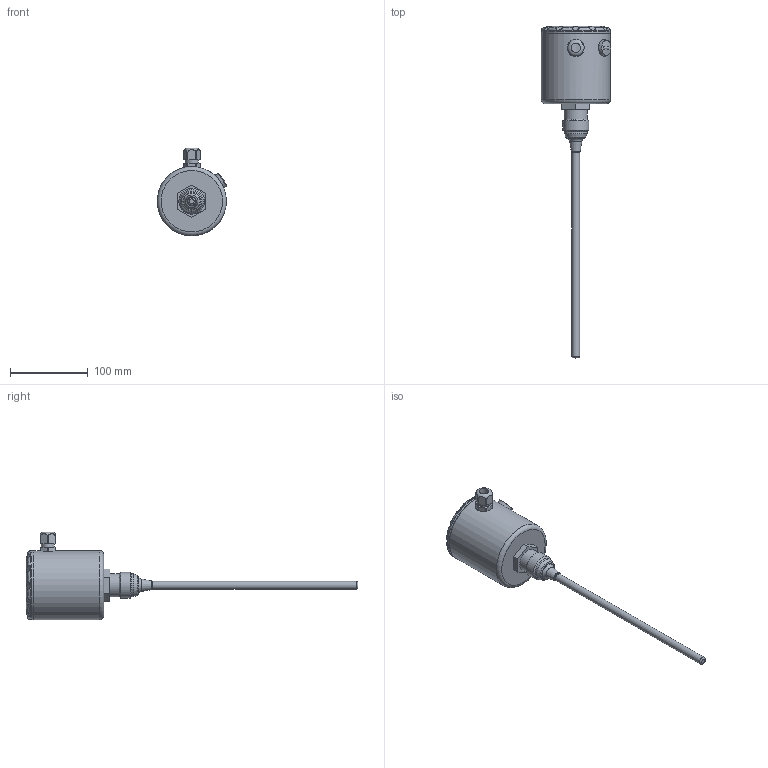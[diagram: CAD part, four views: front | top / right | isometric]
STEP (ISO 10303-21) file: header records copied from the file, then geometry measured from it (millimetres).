
FILE_DESCRIPTION( ( 'Unknown' ), '1' );
FILE_NAME( 'F:/U_Proces/Dokumentation/7000 3D Step filer/7000-/7000117/LSP050.26,5.1.stp', 'Unknown', ( 'Unknown' ), ( 'Unknown' ), 'PSStep 13.0', 'Unknown', ' ' );
FILE_SCHEMA( ( 'AUTOMOTIVE_DESIGN { 1 0 10303 214 1 1 1 1 }' ) );
Length unit declared in the file: millimetre
Products named in the file (1): HUS
Bounding box: 89.58 x 426.95 x 112.8 mm (x, y, z)
Surface area: 94178.9 mm2 (no closed solid volume)
Topology: 0 solids, 154 shells, 154 faces, 671 edges, 615 vertices
Faces by surface type: cylinder 57, plane 53, torus 21, cone 21, bspline 1, sphere 1
Full cylindrical faces by diameter (mm): 3 x2, 7 x1, 10 x3, 11.5 x1, 12 x1, 14 x1, 15 x1, 16 x1, 16.691 x1, 19.5 x1, 20 x1, 24.98 x1, 26 x2, 29.5 x2, 33.25 x1, 76 x1, 80 x1, 89 x2
Entity records: 10077 total; most frequent: CARTESIAN_POINT 4070, DIRECTION 1026, ORIENTED_EDGE 590, EDGE_CURVE 590, VERTEX_POINT 590, AXIS2_PLACEMENT_3D 426, CIRCLE 264, FACE_BOUND 231
